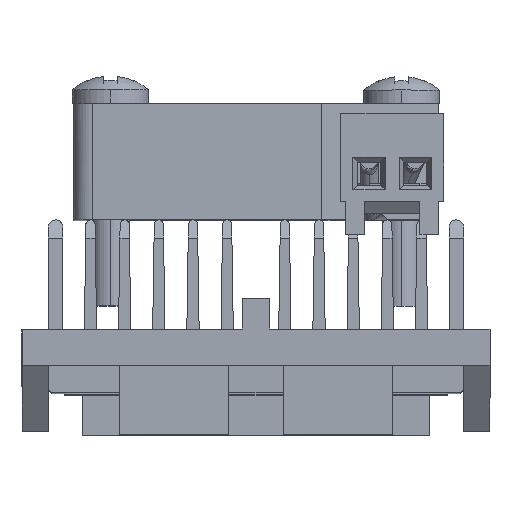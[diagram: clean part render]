
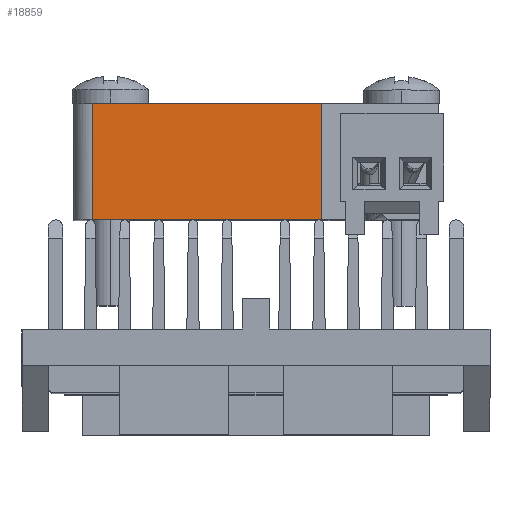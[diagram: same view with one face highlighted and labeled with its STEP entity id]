
A CAD part, top view. The second image highlights one B-rep face of the part: STEP entity #18859.
In plain terms, the highlighted planar face has unit normal (0, 0, 1).
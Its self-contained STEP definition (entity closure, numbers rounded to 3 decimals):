
#271 = CARTESIAN_POINT ( 'NONE',  ( 2.181, 12.553, 13.073 ) ) ;
#1098 = DIRECTION ( 'NONE',  ( -1., 0., 0. ) ) ;
#1110 = PLANE ( 'NONE',  #11050 ) ;
#3577 = VERTEX_POINT ( 'NONE', #271 ) ;
#3599 = VECTOR ( 'NONE', #1098, 1000. ) ;
#4422 = VECTOR ( 'NONE', #15009, 1000. ) ;
#4524 = DIRECTION ( 'NONE',  ( 0., -1., 0. ) ) ;
#4610 = CARTESIAN_POINT ( 'NONE',  ( -10.419, 12.553, 13.073 ) ) ;
#6108 = DIRECTION ( 'NONE',  ( 0., 0., -1. ) ) ;
#6147 = CARTESIAN_POINT ( 'NONE',  ( -10.419, 6.153, 13.073 ) ) ;
#6617 = VERTEX_POINT ( 'NONE', #17485 ) ;
#6798 = VECTOR ( 'NONE', #8478, 1000. ) ;
#7001 = CARTESIAN_POINT ( 'NONE',  ( 2.181, 12.653, 13.073 ) ) ;
#7816 = VECTOR ( 'NONE', #13306, 1000. ) ;
#8149 = VERTEX_POINT ( 'NONE', #6147 ) ;
#8478 = DIRECTION ( 'NONE',  ( 1., 0., 0. ) ) ;
#8690 = FACE_OUTER_BOUND ( 'NONE', #14241, .T. ) ;
#8777 = LINE ( 'NONE', #11886, #4422 ) ;
#8978 = LINE ( 'NONE', #15315, #3599 ) ;
#9370 = ORIENTED_EDGE ( 'NONE', *, *, #11039, .F. ) ;
#9846 = ORIENTED_EDGE ( 'NONE', *, *, #19059, .F. ) ;
#9921 = LINE ( 'NONE', #16240, #6798 ) ;
#11039 = EDGE_CURVE ( 'NONE', #6617, #8149, #8978, .T. ) ;
#11050 = AXIS2_PLACEMENT_3D ( 'NONE', #18964, #6108, #4524 ) ;
#11333 = ORIENTED_EDGE ( 'NONE', *, *, #15912, .F. ) ;
#11886 = CARTESIAN_POINT ( 'NONE',  ( -10.419, 12.653, 13.073 ) ) ;
#13306 = DIRECTION ( 'NONE',  ( 0., -1., 0. ) ) ;
#13611 = VERTEX_POINT ( 'NONE', #4610 ) ;
#14241 = EDGE_LOOP ( 'NONE', ( #9846, #11333, #9370, #19635 ) ) ;
#14849 = LINE ( 'NONE', #7001, #7816 ) ;
#15009 = DIRECTION ( 'NONE',  ( 0., 1., 0. ) ) ;
#15315 = CARTESIAN_POINT ( 'NONE',  ( -1.419, 6.153, 13.073 ) ) ;
#15912 = EDGE_CURVE ( 'NONE', #8149, #13611, #8777, .T. ) ;
#16240 = CARTESIAN_POINT ( 'NONE',  ( 8.581, 12.553, 13.073 ) ) ;
#16403 = EDGE_CURVE ( 'NONE', #3577, #6617, #14849, .T. ) ;
#17485 = CARTESIAN_POINT ( 'NONE',  ( 2.181, 6.153, 13.073 ) ) ;
#18859 = ADVANCED_FACE ( 'NONE', ( #8690 ), #1110, .F. ) ;
#18964 = CARTESIAN_POINT ( 'NONE',  ( 8.581, 12.653, 13.073 ) ) ;
#19059 = EDGE_CURVE ( 'NONE', #13611, #3577, #9921, .T. ) ;
#19635 = ORIENTED_EDGE ( 'NONE', *, *, #16403, .F. ) ;
